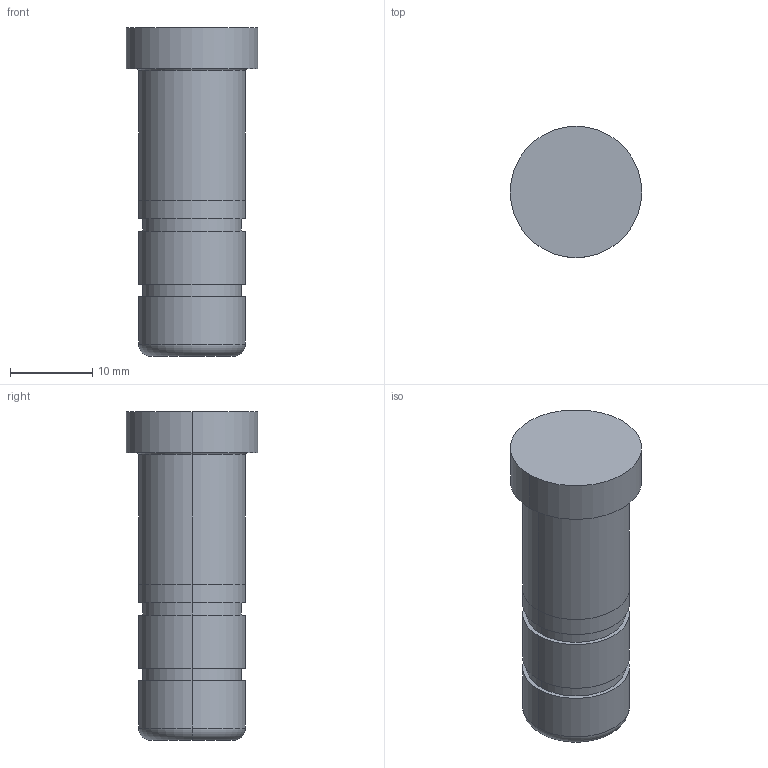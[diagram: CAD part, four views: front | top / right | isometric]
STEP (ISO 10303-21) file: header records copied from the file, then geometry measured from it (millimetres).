
FILE_DESCRIPTION(/* description */ (''),/* implementation_level */ '2;1');
FILE_NAME(/* name */ '3d_sgoh13-40_05210_r00.stp',/* time_stamp */ '2011-01-10T14:11:10+09:00',/* author */ ('MISUMI'),/* organization */ (''),/* preprocessor_version */ 'ST-DEVELOPER v11',/* originating_system */ 'UGS - NX 5.0',/* authorisation */ '');
FILE_SCHEMA (('CONFIG_CONTROL_DESIGN'));
Length unit declared in the file: millimetre
Products named in the file (1): 3d_sgoh13-40_05210_r00
Bounding box: 16 x 16 x 40 mm (x, y, z)
Volume: 5573.9 mm3; surface area: 2120.3 mm2
Topology: 1 solids, 1 shells, 25 faces, 48 edges, 30 vertices
Faces by surface type: cylinder 14, plane 7, torus 4
Entity records: 734 total; most frequent: DIRECTION 134, CARTESIAN_POINT 104, ORIENTED_EDGE 96, AXIS2_PLACEMENT_3D 60, EDGE_CURVE 48, CIRCLE 34, EDGE_LOOP 30, VERTEX_POINT 30
